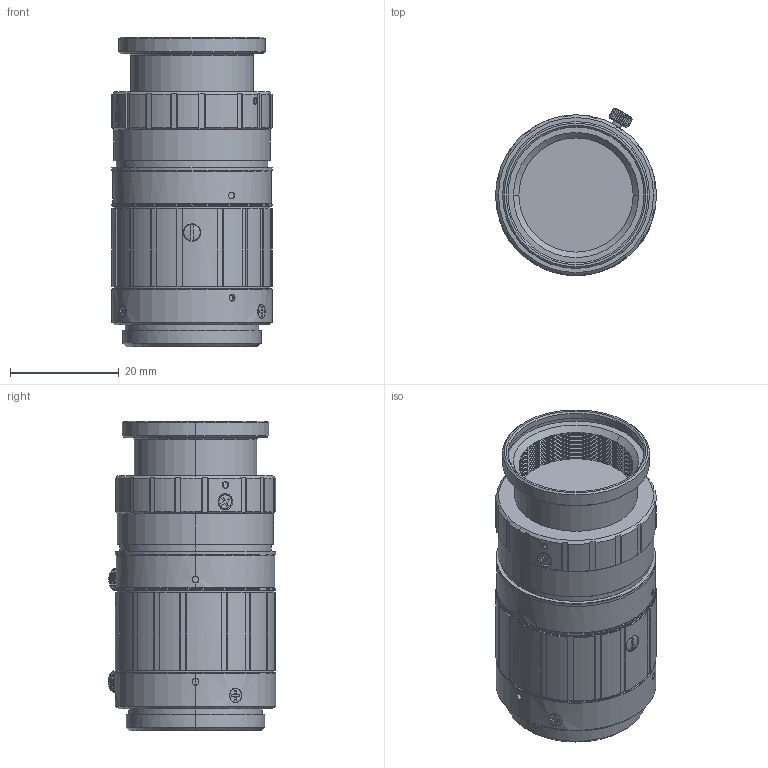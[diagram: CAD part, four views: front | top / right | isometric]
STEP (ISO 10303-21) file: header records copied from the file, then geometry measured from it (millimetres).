
FILE_DESCRIPTION (( 'STEP AP214' ), '1' );
FILE_NAME ('HF25XA-5M_3D_Modeling_20170120_ver1.0.STEP', '2017-01-20T06:46:52', ( '富士フイルム株式会社' ), ( '富士フイルム株式会社' ), 'SwSTEP 2.0', 'SolidWorks 2014', '' );
FILE_SCHEMA (( 'AUTOMOTIVE_DESIGN' ));
Length unit declared in the file: millimetre
Products named in the file (1): HF25XA-5M_3D_Modeling_20170120_ver1.0
Bounding box: 29.5 x 30.78 x 56.9 mm (x, y, z)
Volume: 29828.2 mm3; surface area: 8278.2 mm2
Topology: 1 solids, 4 shells, 620 faces, 1656 edges, 1079 vertices
Faces by surface type: plane 319, cone 175, cylinder 124, bspline 2
Entity records: 29302 total; most frequent: CARTESIAN_POINT 8139, ORIENTED_EDGE 3308, DIRECTION 2456, EDGE_CURVE 1654, VERTEX_POINT 1079, AXIS2_PLACEMENT_3D 854, LINE 748, VECTOR 748
